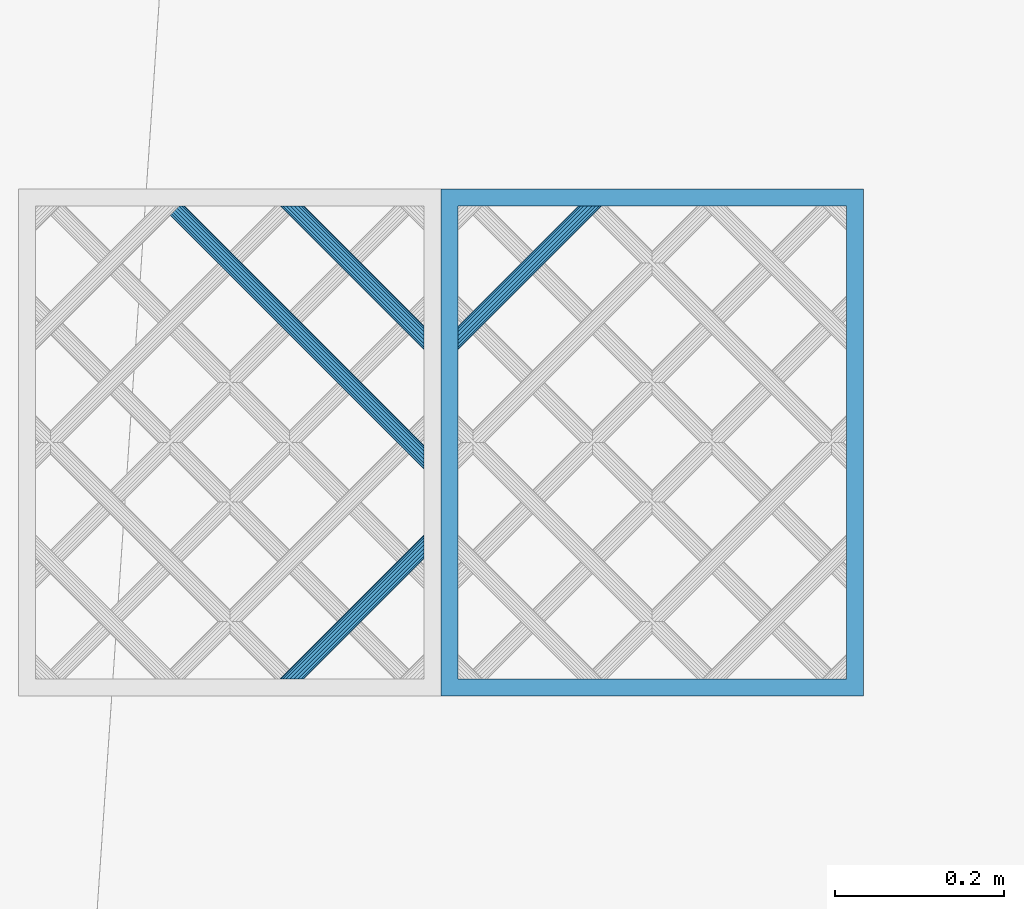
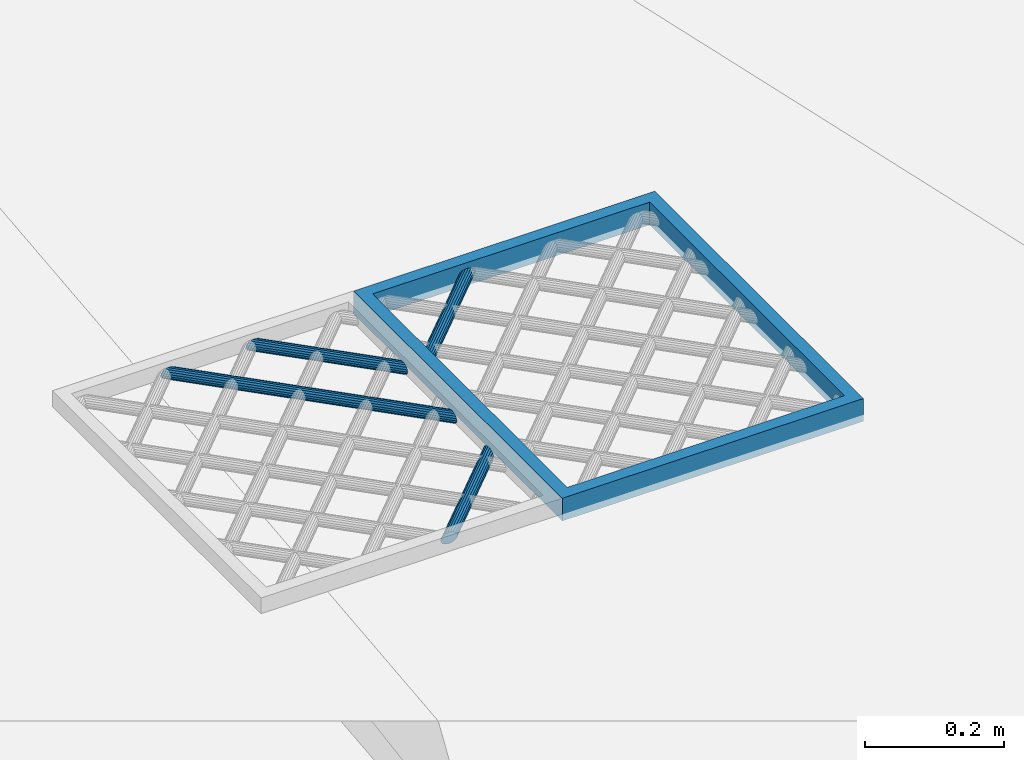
# One storey, part 75 of 133: 5 members, 2 elements without a shape of their own.
"""IFC2X3 building model written with IfcOpenShell, lengths in centimetres."""

from ifc_helpers import new_model, entity, si_unit, converted_unit, direction, frame, origin, origin_with_axes, place, context, subcontext, project, spatial, faceted_brep, material, type_object, element, aggregate, save


model = new_model("IFC2X3")

# Units and contexts
model_context = context("Model", 3, precision=0.0001, world=origin(), true_north=direction((0.225632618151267, 0.974212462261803, 0.0)))
body_context = subcontext(model_context, "Body", "Model", "MODEL_VIEW")
ifc_project = project(units=[si_unit("LENGTHUNIT", "METRE", prefix="CENTI"), si_unit("AREAUNIT", "SQUARE_METRE", prefix="CENTI"), si_unit("VOLUMEUNIT", "CUBIC_METRE", prefix="CENTI"), converted_unit("PLANEANGLEUNIT", "DEGREE", entity("IfcRatioMeasure", 0.0174532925), si_unit("PLANEANGLEUNIT", "RADIAN"), dimensions=[0, 0, 0, 0, 0, 0, 0])], contexts=[model_context])

# Site, building, storey
site_placement = place(None, origin_with_axes())
site = spatial("IfcSite", under=ifc_project, at=site_placement, Name="Default Site", CompositionType="ELEMENT")
building_placement = place(site_placement, origin_with_axes())
building = spatial("IfcBuilding", under=site, at=building_placement, Name="Default Building", CompositionType="ELEMENT")
storey_placement = place(building_placement, frame((0.0, 0.0, -291.400371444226), z_axis=(0.0, 0.0, 1.0), x_axis=(1.0, 0.0, 0.0)))
storey = spatial("IfcBuildingStorey", under=building, at=storey_placement, Name="Rez-de-Jardin", CompositionType="ELEMENT", Elevation=-291.400371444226)

# Assembly, members
building_element_proxy_type = type_object("IfcBuildingElementProxyType", Name="Type Object", PredefinedType="NOTDEFINED")
assembly_1_placement = place(storey_placement, frame((-26.2717802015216, 1298.33524038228, 113.0), z_axis=(0.0, 1.0, -2.38697950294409e-15), x_axis=(1.0, 0.0, 0.0)))
assembly_1 = element("IfcElementAssembly", 1, at=assembly_1_placement, inside=storey, type_object=building_element_proxy_type, Name="Panneau 326484", ObjectType="Precast panel", PredefinedType="USERDEFINED")
ifc_material = material(Name="Aluminium satiné")
member_1_placement = place(assembly_1_placement, frame((47.999998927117, 0.342020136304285, 16.3157343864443), z_axis=(0.999999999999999, 0.0, 0.0), x_axis=(0.0, -0.774596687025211, -0.632455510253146)))
member_1 = element("IfcMember", 2, at=member_1_placement, material=ifc_material, Name="4294966895", context=body_context, shape_type="Brep", body=[
    faceted_brep([(2.13717932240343e-13, -1.06858966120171e-13, 0.0), (-0.388289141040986, -1.06858966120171e-13, 0.0), (-0.799165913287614, -0.15024930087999, 0.0), (-1.18307291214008, -0.432626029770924, 0.0), (-1.49370420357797, -0.813070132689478, 0.0), (-1.69359339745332, -1.24569483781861, 0.0), (-1.75863166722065, -1.67832007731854, 0.0), (-1.68097381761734, -2.05876418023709, 0.0), (-1.46998625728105, -2.34113956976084, 0.0), (-1.15111848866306, -2.49138921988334, 0.0), (-0.762829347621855, -2.49138921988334, 0.0), (-0.351952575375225, -2.34113991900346, 0.0), (0.0319534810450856, -2.05876434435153, 0.0), (0.342584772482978, -1.67832024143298, 0.0), (0.542474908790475, -1.24569438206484, 0.0), (0.607513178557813, -0.813069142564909, 0.0), (0.529855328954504, -0.432625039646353, 0.0), (0.318867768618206, -0.150249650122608, 0.0), (9.31899278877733, 10.8726079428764, -14.2304450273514), (9.58392045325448, 10.6562954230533, -14.3157333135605), (9.81689394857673, 10.466073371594, -14.5613104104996), (9.98981319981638, 10.324885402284, -14.9375528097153), (10.0818216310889, 10.2497608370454, -15.3990834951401), (10.0818216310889, 10.2497608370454, -15.890234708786), (9.98981319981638, 10.324885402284, -16.3517653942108), (9.81689394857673, 10.466073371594, -16.7280107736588), (9.58392045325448, 10.6562954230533, -16.9735848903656), (9.31899278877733, 10.8726079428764, -17.0588731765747), (9.05406512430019, 11.0889204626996, -16.9735848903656), (8.82109162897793, 11.2791425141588, -16.7280107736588), (8.64817237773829, 11.4203304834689, -16.3517653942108), (8.55616394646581, 11.4954550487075, -15.890234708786), (8.55616394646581, 11.4954550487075, -15.3990834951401), (8.64817237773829, 11.4203304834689, -14.9375528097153), (8.82109162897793, 11.2791425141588, -14.5613104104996), (9.05406512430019, 11.0889204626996, -14.3157333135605), (0.529855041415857, -0.432625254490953, -3.48273316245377e-07), (9.58391971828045, 10.6562948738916, -14.3157342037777), (9.31899174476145, 10.8726071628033, -14.2304462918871), (0.607513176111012, -0.813069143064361, -1.93436589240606e-09), (9.81689412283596, 10.4660734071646, -14.5613102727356), (9.58391992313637, 10.6562953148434, -14.3157337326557), (0.542475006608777, -1.24569439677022, 5.04749817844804e-08), (9.98981285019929, 10.3248854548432, -14.9375529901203), (9.81689409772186, 10.4660733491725, -14.5613103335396), (0.34258496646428, -1.67832033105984, 5.32598692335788e-08), (10.0818212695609, 10.2497610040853, -15.3990835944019), (9.98981296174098, 10.3248855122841, -14.9375528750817), (-0.351952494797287, -2.34114002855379, -3.38953654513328e-08), (9.98981364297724, 10.3248847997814, -16.3517655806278), (10.0818219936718, 10.2497603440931, -15.8902348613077), (-0.762829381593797, -2.49138912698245, 5.04749821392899e-08), (9.81689406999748, 10.4660730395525, -16.7280109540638), (9.98981356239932, 10.3248844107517, -16.3517659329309), (-1.15111848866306, -2.4913892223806, -1.93436714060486e-09), (9.58392045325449, 10.6562941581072, -16.9735858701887), (9.81689394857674, 10.4660728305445, -16.7280111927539), (-1.46998641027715, -2.34113989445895, -3.48273315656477e-07), (9.31899239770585, 10.8726071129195, -17.0588740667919), (9.58391989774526, 10.6562942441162, -16.9735861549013), (-1.6809735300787, -2.05876396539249, 3.48273315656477e-07), (9.05406436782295, 11.088919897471, -16.973585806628), (9.31899234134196, 10.8726076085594, -17.0588737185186), (-1.75863166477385, -1.67832007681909, 1.93436650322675e-09), (8.82109110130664, 11.2791424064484, -16.7280111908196), (9.05406388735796, 11.0889202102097, -16.9735858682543), (-1.69359349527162, -1.24569482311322, -5.04749811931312e-08), (8.64817123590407, 11.420330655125, -16.3517659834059), (8.82109118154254, 11.2791425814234, -16.7280110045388), (-1.49370408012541, -0.813070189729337, 3.38953655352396e-08), (8.5561635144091, 11.4954552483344, -15.8902348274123), (8.64817182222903, 11.4203307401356, -16.3517655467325), (-0.799165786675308, -0.150249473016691, -5.3259868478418e-08), (8.64817265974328, 11.4203301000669, -14.9375529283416), (8.55616430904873, 11.4954545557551, -15.3990836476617), (-0.388289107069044, -9.29009993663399e-08, -5.04749817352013e-08), (8.82109161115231, 11.2791425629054, -14.5613103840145), (8.64817253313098, 11.4203300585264, -14.9375530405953), (2.13692234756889e-13, 2.49714834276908e-09, 1.93436558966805e-09), (9.05406512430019, 11.0889199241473, -14.3157337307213), (8.82109162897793, 11.2791426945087, -14.5613102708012), (0.318867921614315, -0.150249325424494, 3.48273315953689e-07), (9.31899238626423, 10.8726070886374, -14.2304459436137), (9.05406488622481, 11.0889199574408, -14.3157338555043)], [[[0, 1, 2, 3, 4, 5, 6, 7, 8, 9, 10, 11, 12, 13, 14, 15, 16, 17]], [[18, 19, 20, 21, 22, 23, 24, 25, 26, 27, 28, 29, 30, 31, 32, 33, 34, 35]], [[17, 36, 37, 38]], [[16, 39, 40, 41]], [[15, 42, 43, 44]], [[14, 45, 46, 47]], [[13, 12, 23, 22]], [[12, 48, 49, 50]], [[11, 51, 52, 53]], [[10, 54, 55, 56]], [[9, 57, 58, 59]], [[8, 60, 61, 62]], [[7, 63, 64, 65]], [[6, 66, 67, 68]], [[5, 69, 70, 71]], [[4, 3, 32, 31]], [[3, 72, 73, 74]], [[2, 75, 76, 77]], [[1, 78, 79, 80]], [[0, 81, 82, 83]]]),
])
member_2_placement = place(assembly_1_placement, frame((47.999998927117, 0.342020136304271, 41.0264134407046), z_axis=(0.999999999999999, 0.0, 0.0), x_axis=(0.0, -0.774598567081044, -0.632453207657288)))
member_2 = element("IfcMember", 3, at=member_2_placement, material=ifc_material, Name="4294966892", context=body_context, shape_type="Brep", body=[
    faceted_brep([(-3.33066907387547e-14, 5.55111512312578e-15, 0.0), (-0.388288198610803, 5.55111512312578e-15, 0.0), (-0.799165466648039, -0.150251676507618, 0.0), (-1.18307068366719, -0.432628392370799, 0.0), (-1.49370084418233, -0.813073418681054, 0.0), (-1.69358875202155, -1.24569871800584, 0.0), (-1.75862667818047, -1.6783253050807, 0.0), (-1.68096675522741, -2.05876802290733, 0.0), (-1.46997929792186, -2.34114393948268, 0.0), (-1.15111014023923, -2.49139148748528, 0.0), (-0.762821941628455, -2.49139148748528, 0.0), (-0.35194467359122, -2.34113981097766, 0.0), (0.0319605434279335, -2.05876309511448, 0.0), (0.342590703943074, -1.67831806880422, 0.0), (0.542478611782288, -1.24569276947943, 0.0), (0.607516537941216, -0.813066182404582, 0.0), (0.529856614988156, -0.432623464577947, 0.0), (0.3188691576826, -0.150247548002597, 0.0), (-10.4700699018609, -13.3640262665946, -17.0588731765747), (-10.2051415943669, -13.5803379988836, -16.9735848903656), (-9.97216753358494, -13.7705593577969, -16.7280107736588), (-9.79924786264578, -13.9117468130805, -16.3517653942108), (-9.70723920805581, -13.9868711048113, -15.890234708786), (-9.70723920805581, -13.9868711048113, -15.3990834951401), (-9.79924786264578, -13.9117468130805, -14.9375528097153), (-9.97216753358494, -13.7705593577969, -14.5613104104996), (-10.2051415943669, -13.5803379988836, -14.3157333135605), (-10.4700699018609, -13.3640262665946, -14.2304450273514), (-10.734998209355, -13.1477145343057, -14.3157333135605), (-10.967972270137, -12.9574931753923, -14.5613104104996), (-11.1408919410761, -12.8163057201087, -14.9375528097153), (-11.2329005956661, -12.7411814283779, -15.3990834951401), (-11.2329005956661, -12.7411814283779, -15.890234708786), (-11.1408919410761, -12.8163057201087, -16.3517653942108), (-10.967972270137, -12.9574931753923, -16.7280107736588), (-10.734998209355, -13.1477145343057, -16.9735848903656), (0.529856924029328, -0.432623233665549, -3.74318493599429e-07), (-10.2051412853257, -13.5803377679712, -16.9735852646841), (0.607515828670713, -0.813066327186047, 5.60727920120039e-07), (-9.97216824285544, -13.7705595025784, -16.7280102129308), (0.542479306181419, -1.2456928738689, -3.58315028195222e-07), (-9.79924716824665, -13.91174691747, -16.3517657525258), (-9.97216753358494, -13.7705593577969, -16.7280107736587), (0.342590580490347, -1.67831801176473, 3.38953650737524e-08), (-9.70723933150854, -13.9868710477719, -15.8902346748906), (-9.79924786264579, -13.9117468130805, -16.3517653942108), (0.0319605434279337, -2.05876309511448, 0.0), (-0.351944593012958, -2.34113992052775, 3.3895365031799e-08), (-9.79924778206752, -13.9117469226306, -14.9375527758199), (-0.762822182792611, -2.4913908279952, -3.58315030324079e-07), (-9.97216736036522, -13.7705598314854, -14.5613101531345), (-1.15111014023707, -2.49139221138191, 5.60727920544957e-07), (-10.2051415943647, -13.5803387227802, -14.3157327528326), (-9.97216753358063, -13.7705608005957, -14.5613092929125), (-1.46997913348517, -2.34114359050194, -3.74318489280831e-07), (-10.4700697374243, -13.3640259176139, -14.2304454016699), (-1.68096706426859, -2.05876825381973, 3.74318492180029e-07), (-10.7349985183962, -13.1477147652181, -14.315732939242), (-1.75862596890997, -1.67832516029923, -5.60727920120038e-07), (-10.9679729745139, -12.9574933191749, -14.5613098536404), (-1.69358944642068, -1.24569861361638, 3.58315028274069e-07), (-11.1408926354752, -12.8163056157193, -14.9375524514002), (-10.9679734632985, -12.9574929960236, -14.5613097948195), (-1.49370072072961, -0.813073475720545, -3.3895365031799e-08), (-11.2329004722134, -12.7411814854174, -15.3990835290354), (-1.18307068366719, -0.432628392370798, 0.0), (-0.799165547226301, -0.150251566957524, -3.3895365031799e-08), (-11.1408920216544, -12.8163056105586, -16.3517654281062), (-0.388287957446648, -6.59490078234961e-07, 3.58315030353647e-07), (-10.9679720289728, -12.9574938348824, -16.7280104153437), (-2.19263608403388e-12, 7.23896627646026e-07, -5.60727920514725e-07), (-10.7349982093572, -13.147713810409, -16.9735854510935), (0.318868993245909, -0.150247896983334, 3.74318491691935e-07), (-10.4700700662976, -13.3640266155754, -17.0588728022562)], [[[0, 1, 2, 3, 4, 5, 6, 7, 8, 9, 10, 11, 12, 13, 14, 15, 16, 17]], [[18, 19, 20, 21, 22, 23, 24, 25, 26, 27, 28, 29, 30, 31, 32, 33, 34, 35]], [[17, 36, 37, 18]], [[16, 38, 39, 19]], [[15, 40, 41, 42]], [[14, 43, 44, 45]], [[13, 46, 23, 22]], [[12, 47, 48, 23]], [[11, 49, 50, 24]], [[10, 51, 52, 53]], [[9, 54, 55, 26]], [[8, 56, 57, 27]], [[7, 58, 59, 28]], [[6, 60, 61, 62]], [[5, 63, 64, 30]], [[4, 65, 32, 31]], [[3, 66, 67, 32]], [[2, 68, 69, 33]], [[1, 70, 71, 34]], [[0, 72, 73, 35]]]),
])
member_3_placement = place(assembly_1_placement, frame((47.999998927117, 0.342020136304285, 26.8842786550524), z_axis=(0.999999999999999, 0.0, 0.0), x_axis=(0.0, -0.774598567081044, -0.632453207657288)))
member_3 = element("IfcMember", 4, at=member_3_placement, material=ifc_material, Name="4294966891", context=body_context, shape_type="Brep", body=[
    faceted_brep([(8.60422844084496e-14, 1.13797860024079e-13, 0.0), (-0.388288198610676, 1.13797860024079e-13, 0.0), (-0.799163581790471, -0.15024936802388, 0.0), (-1.18307068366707, -0.432628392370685, 0.0), (-1.49370084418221, -0.813073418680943, 0.0), (-1.69358875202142, -1.24569871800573, 0.0), (-1.75862479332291, -1.67832299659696, 0.0), (-1.68096675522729, -2.05876802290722, 0.0), (-1.46997741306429, -2.34114163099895, 0.0), (-1.1511101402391, -2.49139148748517, 0.0), (-0.762820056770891, -2.49138917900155, 0.0), (-0.351944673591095, -2.34113981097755, 0.0), (0.0319605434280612, -2.05876309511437, 0.0), (0.342590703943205, -1.67831806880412, 0.0), (0.542480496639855, -1.2456904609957, 0.0), (0.607516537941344, -0.813066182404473, 0.0), (0.529856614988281, -0.432623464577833, 0.0), (0.318869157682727, -0.150247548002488, 0.0), (-19.4143084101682, -24.3185036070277, -31.201009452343), (-19.1493801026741, -24.5348153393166, -31.1157211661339), (-18.9164060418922, -24.72503669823, -30.8701455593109), (-18.7434863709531, -24.8662241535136, -30.4939016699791), (-18.6514777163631, -24.9413484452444, -30.0323709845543), (-18.6514777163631, -24.9413484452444, -29.5412197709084), (-18.7434863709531, -24.8662241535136, -29.0796890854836), (-18.9164060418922, -24.72503669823, -28.7034451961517), (-19.1493801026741, -24.5348153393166, -28.4578695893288), (-19.4143084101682, -24.3185036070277, -28.3725813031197), (-19.6792367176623, -24.1021918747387, -28.4578695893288), (-19.9122107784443, -23.9119705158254, -28.7034451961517), (-20.0851304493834, -23.7707830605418, -29.0796890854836), (-20.1771391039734, -23.695658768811, -29.5412197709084), (-20.1771391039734, -23.695658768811, -30.0323709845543), (-20.0851304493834, -23.7707830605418, -30.4939016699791), (-19.9122107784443, -23.9119705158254, -30.8701455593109), (-19.6792367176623, -24.1021918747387, -31.1157211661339), (0.529856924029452, -0.432623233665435, -3.74318493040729e-07), (-19.1493803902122, -24.5348155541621, -31.1157208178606), (-19.4143090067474, -24.3185040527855, -31.2010087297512), (0.60751582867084, -0.813066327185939, 5.60727920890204e-07), (-18.9164067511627, -24.7250368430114, -30.870144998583), (-19.1493808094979, -24.5348154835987, -31.1157206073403), (0.542479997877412, -1.24569038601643, 2.57365066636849e-07), (-18.7434862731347, -24.8662241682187, -30.4939017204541), (0.34259121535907, -1.67831830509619, -1.4041510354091e-07), (-18.6514775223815, -24.9413485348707, -30.0323710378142), (-18.7434860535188, -24.8662243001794, -30.4939017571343), (0.0319605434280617, -2.05876309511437, 0.0), (-0.351944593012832, -2.34113992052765, 3.38953653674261e-08), (-18.7434860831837, -24.8662245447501, -29.0796889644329), (-18.651477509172, -24.9413487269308, -29.5412196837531), (-0.762819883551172, -2.49138965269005, 2.57365066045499e-07), (-18.9164058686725, -24.7250371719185, -28.7034449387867), (-18.7434861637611, -24.8662247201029, -29.0796887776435), (-1.15111014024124, -2.49139076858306, -5.56859187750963e-07), (-19.1493801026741, -24.5348153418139, -28.4578695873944), (-1.46997788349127, -2.34114262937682, 1.07086512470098e-06), (-19.4143085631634, -24.3185039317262, -28.3725809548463), (-19.149380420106, -24.534816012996, -28.457868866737), (-1.6809658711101, -2.05876736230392, -1.07086512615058e-06), (-19.6792364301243, -24.1021916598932, -28.4578699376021), (-19.4143078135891, -24.3185031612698, -28.3725820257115), (-1.75862549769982, -1.67832314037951, 5.56859190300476e-07), (-19.9122114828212, -23.9119706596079, -28.7034446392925), (-19.679237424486, -24.1021920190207, -28.4578690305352), (-1.69358825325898, -1.24569879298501, -2.57365066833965e-07), (-20.0851305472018, -23.7707830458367, -29.0796890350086), (-1.49370072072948, -0.813073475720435, -3.38953657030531e-08), (-20.177139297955, -23.6956586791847, -29.5412197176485), (-20.0851307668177, -23.770782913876, -29.0796889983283), (-1.18307068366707, -0.432628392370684, 0.0), (-0.79916324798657, -0.150249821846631, 1.40415104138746e-07), (-20.0851303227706, -23.7707832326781, -30.4939016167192), (-20.1771388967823, -23.6956590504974, -30.0323708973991), (-0.388288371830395, 4.73688615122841e-07, -2.5736506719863e-07), (-19.912210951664, -23.9119700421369, -30.870145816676), (-20.0851306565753, -23.7707824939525, -30.4939019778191), (-2.07328710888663e-12, 7.23896735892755e-07, -5.60727920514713e-07), (-19.6792367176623, -24.1021918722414, -31.1157211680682), (0.318868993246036, -0.150247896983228, 3.74318493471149e-07), (-19.4143088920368, -24.3185046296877, -31.2010083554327), (-19.6792370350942, -24.102192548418, -31.1157204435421)], [[[0, 1, 2, 3, 4, 5, 6, 7, 8, 9, 10, 11, 12, 13, 14, 15, 16, 17]], [[18, 19, 20, 21, 22, 23, 24, 25, 26, 27, 28, 29, 30, 31, 32, 33, 34, 35]], [[17, 36, 37, 38]], [[16, 39, 40, 41]], [[15, 42, 43, 20]], [[14, 44, 45, 46]], [[13, 47, 23, 22]], [[12, 48, 49, 50]], [[11, 51, 52, 53]], [[10, 54, 55, 25]], [[9, 56, 57, 58]], [[8, 59, 60, 61]], [[7, 62, 63, 64]], [[6, 65, 66, 29]], [[5, 67, 68, 69]], [[4, 70, 32, 31]], [[3, 71, 72, 73]], [[2, 74, 75, 76]], [[1, 77, 78, 34]], [[0, 79, 80, 81]]]),
])
aggregate(assembly_1, [member_1, member_2, member_3])

assembly_2_placement = place(storey_placement, frame((23.728219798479, 1298.33524038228, 113.0), z_axis=(0.0, 1.0, -2.38697950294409e-15), x_axis=(1.0, 0.0, 0.0)))
assembly_2 = element("IfcElementAssembly", 5, at=assembly_2_placement, inside=storey, type_object=building_element_proxy_type, Name="Panneau 326485", ObjectType="Precast panel", PredefinedType="USERDEFINED")
member_4_placement = place(assembly_2_placement, frame((1.99999995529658, 1.9999999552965, 57.9999983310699), z_axis=(0.999999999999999, 1.92249071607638e-31, -8.0540729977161e-17), x_axis=(0.0, 1.0, 2.38697950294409e-15)))
member_4 = element("IfcMember", 6, at=member_4_placement, material=ifc_material, Name="4294966885", context=body_context, shape_type="Brep", body=[
    faceted_brep([(-1.70002900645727e-14, 0.0, 3.81639164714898e-15), (-3.99999991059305, 0.0, 3.81639164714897e-15), (-3.99999991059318, -55.9999983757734, 3.81639164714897e-15), (-1.50573997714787e-13, -55.9999983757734, 3.81639164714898e-15), (-3.99999991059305, 0.0, 3.81639164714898e-15), (-3.99999991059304, 2.00000405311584, -1.99999995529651), (-3.99999991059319, -57.9999983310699, -1.99999995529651), (-3.99999991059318, -55.9999983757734, 8.32667268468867e-15), (-1.21430643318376e-14, 2.00000405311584, -1.99999995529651), (-1.55431223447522e-13, -57.9999983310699, -1.99999995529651), (-1.69170330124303e-14, -1.98732876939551e-31, 3.81639164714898e-15), (-1.50587881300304e-13, -55.9999983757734, 8.32667268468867e-15), (-1.55361840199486e-13, -57.9999983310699, -1.99999995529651), (-1.50573997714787e-13, -55.9999983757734, 8.32667268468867e-15), (-3.99999991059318, -55.9999983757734, 45.9999989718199), (-1.50573997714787e-13, -55.9999983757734, 45.9999989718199), (-3.99999991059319, -57.9999983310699, 48.0000000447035), (-1.55431223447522e-13, -57.99999833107, 48.0000000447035), (-3.99999991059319, -57.9999983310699, 48.0000000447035), (-1.5065726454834e-13, -55.9999983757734, 8.32667268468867e-15), (-1.5065726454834e-13, -55.9999983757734, 45.9999989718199), (-3.99999991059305, 4.47090864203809e-31, 45.9999989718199), (-1.70002900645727e-14, 4.47090864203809e-31, 45.9999989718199), (-3.99999991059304, 2.00000405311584, 48.0000000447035), (-3.99999991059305, 0.0, 45.9999989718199), (-1.21430643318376e-14, 2.00000405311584, 48.0000000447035), (-1.69864162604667e-14, -3.31164860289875e-32, 45.9999989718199), (-1.2212447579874e-14, 2.00000405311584, 48.0000000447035), (-1.70002900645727e-14, 0.0, 45.9999989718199), (-3.99999991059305, 9.54791779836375e-15, 45.9999989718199), (-3.99999991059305, 5.84304430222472e-15, 3.81639164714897e-15), (-1.70002900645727e-14, -3.70487349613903e-15, 3.81639164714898e-15), (-1.21430643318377e-14, 2.00000405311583, 48.0000000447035), (-1.21430643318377e-14, 2.00000405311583, -1.99999995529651), (-1.69170330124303e-14, -1.98732876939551e-31, 45.9999989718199), (-1.69170330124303e-14, -1.98732876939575e-31, 3.81639164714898e-15)], [[[0, 1, 2, 3]], [[4, 5, 6, 7]], [[5, 8, 9, 6]], [[8, 10, 11, 12]], [[13, 7, 14, 15]], [[7, 6, 16, 14]], [[6, 9, 17, 18]], [[9, 19, 20, 17]], [[15, 14, 21, 22]], [[14, 16, 23, 24]], [[16, 17, 25, 23]], [[17, 20, 26, 27]], [[28, 29, 30, 31]], [[24, 23, 5, 4]], [[23, 32, 33, 5]], [[25, 34, 35, 8]]]),
])
member_5_placement = place(assembly_2_placement, frame((18.9735874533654, 0.342020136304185, 57.9999983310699), z_axis=(1.16937634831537e-15, -1.43218776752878e-15, 1.0), x_axis=(0.632455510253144, -0.774596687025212, -1.84894641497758e-15)))
member_5 = element("IfcMember", 7, at=member_5_placement, material=ifc_material, Name="4294966883", context=body_context, shape_type="Brep", body=[
    faceted_brep([(-4.16333634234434e-15, -2.22044604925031e-14, -3.10862446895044e-13), (-0.388289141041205, -2.22044604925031e-14, -3.11580372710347e-13), (-0.799165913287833, -0.150249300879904, -3.1234006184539e-13), (-1.18307196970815, -0.432624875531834, -3.13049883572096e-13), (-1.49370326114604, -0.813068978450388, -3.1362422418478e-13), (-1.69359339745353, -1.24569483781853, -3.13993810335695e-13), (-1.75863166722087, -1.67832007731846, -3.14114062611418e-13), (-1.68097381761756, -2.05876418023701, -3.13970477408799e-13), (-1.46998625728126, -2.34113956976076, -3.1358037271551e-13), (-1.15111848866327, -2.49138921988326, -3.12990803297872e-13), (-0.762829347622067, -2.49138921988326, -3.12272877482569e-13), (-0.351952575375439, -2.34113991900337, -3.11513188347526e-13), (0.0319544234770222, -2.05876319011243, -3.10803364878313e-13), (0.342585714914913, -1.67831908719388, -3.10229024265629e-13), (0.542474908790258, -1.24569438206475, -3.09859439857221e-13), (0.607513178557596, -0.813069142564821, -3.09739187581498e-13), (0.529855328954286, -0.432625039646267, -3.09882772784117e-13), (0.318867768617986, -0.150249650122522, -3.10272877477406e-13), (-10.4701112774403, -13.3639971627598, -17.058873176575), (-10.2051836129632, -13.5803096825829, -16.9735848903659), (-9.97221011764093, -13.7705317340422, -16.7280107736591), (-9.79929086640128, -13.9117197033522, -16.3517653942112), (-9.7072824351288, -13.9868442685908, -15.8902347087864), (-9.7072824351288, -13.9868442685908, -15.3990834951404), (-9.79929086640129, -13.9117197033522, -14.9375528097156), (-9.97221011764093, -13.7705317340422, -14.5613074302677), (-10.2051836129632, -13.5803096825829, -14.3157333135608), (-10.4701112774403, -13.3639971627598, -14.2304450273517), (-10.7350389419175, -13.1476846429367, -14.3157333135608), (-10.9680124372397, -12.9574625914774, -14.5613074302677), (-11.1409316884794, -12.8162746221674, -14.9375528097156), (-11.2329401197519, -12.7411500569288, -15.3990834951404), (-11.2329401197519, -12.7411500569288, -15.8902347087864), (-11.1409316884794, -12.8162746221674, -16.3517653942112), (-10.9680124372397, -12.9574625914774, -16.7280107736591), (-10.7350389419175, -13.1476846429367, -16.9735848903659), (0.318867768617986, -0.150249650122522, -3.10862446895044e-13), (0.529855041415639, -0.432625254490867, 3.48273005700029e-07), (-10.205182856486, -13.5803091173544, -16.9735858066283), (-10.470110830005, -13.3639968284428, -17.0588737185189), (0.529855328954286, -0.432625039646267, -3.10862446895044e-13), (0.607513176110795, -0.813069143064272, 1.93405553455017e-09), (-9.97220958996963, -13.7705316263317, -16.7280111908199), (-10.205182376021, -13.5803094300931, -16.9735858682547), (0.607513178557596, -0.813069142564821, -3.10862446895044e-13), (0.542475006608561, -1.24569439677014, -5.04752929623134e-08), (-9.79928972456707, -13.9117198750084, -16.3517659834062), (-9.97220967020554, -13.7705318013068, -16.7280110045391), (0.542474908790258, -1.24569438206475, -3.10862446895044e-13), (0.342585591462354, -1.67831903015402, 3.38950544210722e-08), (-9.7072820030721, -13.9868444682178, -15.8902348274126), (-9.79929031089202, -13.911719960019, -16.3517655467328), (0.342585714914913, -1.67831908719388, -3.10862446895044e-13), (0.0319544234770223, -2.05876319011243, -3.10862446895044e-13), (0.0319544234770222, -2.05876319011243, -3.10862446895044e-13), (-0.351952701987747, -2.34113974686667, -5.32601805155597e-08), (-9.79929114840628, -13.9117193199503, -14.9375529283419), (-9.70728279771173, -13.9868437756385, -15.3990836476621), (-0.351952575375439, -2.34113991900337, -3.10862446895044e-13), (-0.762829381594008, -2.49138912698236, -5.04752917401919e-08), (-9.97221051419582, -13.770530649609, -14.5613080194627), (-9.79929102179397, -13.9117192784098, -14.9375530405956), (-0.762829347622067, -2.49138921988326, -3.10862446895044e-13), (-1.15111848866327, -2.49138922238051, 1.93405500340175e-09), (-10.2051836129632, -13.5803091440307, -14.3157337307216), (-9.97221011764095, -13.7705304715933, -14.5613084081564), (-1.15111848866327, -2.49138921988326, -3.10862446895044e-13), (-1.46998641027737, -2.34113989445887, 3.4827300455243e-07), (-10.4701108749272, -13.3639963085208, -14.2304459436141), (-10.2051833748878, -13.5803091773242, -14.3157338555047), (-1.46998625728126, -2.34113956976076, -3.10862446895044e-13), (-1.68097353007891, -2.05876396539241, -3.48273627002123e-07), (-10.7350382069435, -13.147684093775, -14.315734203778), (-10.4701102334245, -13.3639963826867, -14.2304462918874), (-1.68097381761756, -2.05876418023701, -3.10862446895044e-13), (-1.75863166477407, -1.67832007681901, -1.93467736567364e-09), (-10.9680111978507, -12.9574623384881, -14.5613084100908), (-10.7350384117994, -13.1476845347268, -14.315733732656), (-1.75863166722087, -1.67832007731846, -3.10862446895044e-13), (-1.69359349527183, -1.24569482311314, 5.0474670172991e-08), (-11.1409313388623, -12.8162746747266, -14.9375529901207), (-10.9680113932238, -12.9574627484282, -14.5613079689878), (-1.69359339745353, -1.24569483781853, -3.10862446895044e-13), (-1.49370345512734, -0.813068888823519, 5.32595587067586e-08), (-11.2329397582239, -12.7411502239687, -15.3990835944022), (-11.140931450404, -12.8162747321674, -14.937552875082), (-1.49370326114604, -0.813068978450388, -3.10862446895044e-13), (-1.18307196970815, -0.432624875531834, -3.10862446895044e-13), (-0.79916599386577, -0.15024919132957, -3.3895676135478e-08), (-11.1409321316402, -12.8162740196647, -16.3517655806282), (-11.2329404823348, -12.7411495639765, -15.890234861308), (-0.799165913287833, -0.150249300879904, -3.10862446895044e-13), (-0.388289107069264, -9.29009132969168e-08, 5.04746701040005e-08), (-10.9680125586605, -12.9574622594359, -16.7280109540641), (-11.1409320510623, -12.8162736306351, -16.3517659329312), (-0.388289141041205, -2.22044604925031e-14, -3.10862446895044e-13), (-4.18903383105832e-15, 2.49723325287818e-09, -1.93467665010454e-09), (-10.7350389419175, -13.1476833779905, -16.973585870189), (-10.9680124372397, -12.9574620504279, -16.7280111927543), (0.318867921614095, -0.150249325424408, -3.48273626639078e-07), (-10.4701108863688, -13.3639963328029, -17.0588740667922), (-10.7350383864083, -13.1476834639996, -16.9735861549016)], [[[0, 1, 2, 3, 4, 5, 6, 7, 8, 9, 10, 11, 12, 13, 14, 15, 16, 17]], [[18, 19, 20, 21, 22, 23, 24, 25, 26, 27, 28, 29, 30, 31, 32, 33, 34, 35]], [[36, 37, 38, 39]], [[40, 41, 42, 43]], [[44, 45, 46, 47]], [[48, 49, 50, 51]], [[52, 53, 23, 22]], [[54, 55, 56, 57]], [[58, 59, 60, 61]], [[62, 63, 64, 65]], [[66, 67, 68, 69]], [[70, 71, 72, 73]], [[74, 75, 76, 77]], [[78, 79, 80, 81]], [[82, 83, 84, 85]], [[86, 87, 32, 31]], [[87, 88, 89, 90]], [[91, 92, 93, 94]], [[95, 96, 97, 98]], [[0, 99, 100, 101]]]),
])
aggregate(assembly_2, [member_4, member_5])

save(model, "model.ifc")
